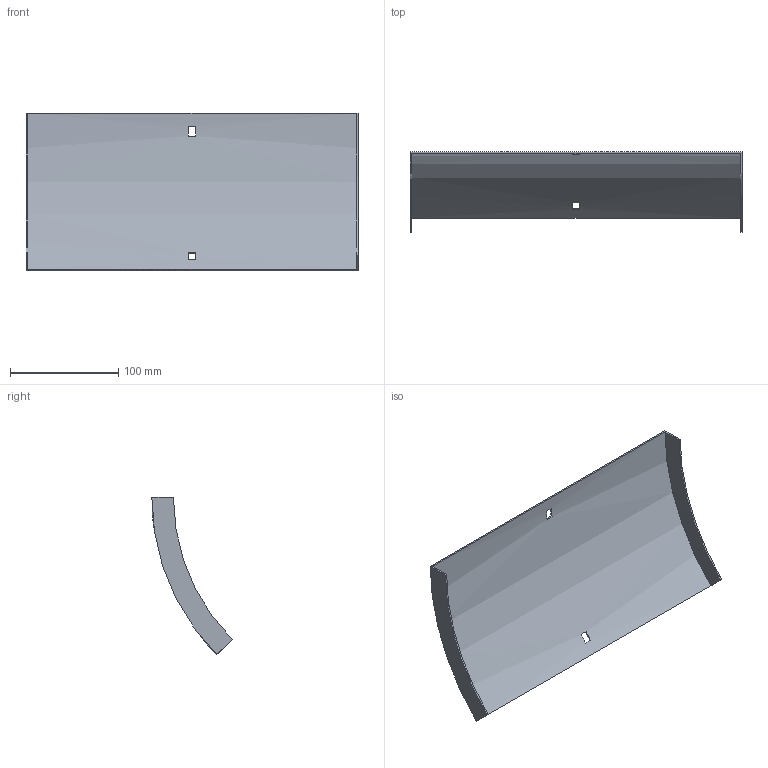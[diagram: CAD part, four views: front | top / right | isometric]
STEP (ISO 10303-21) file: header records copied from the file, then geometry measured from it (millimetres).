
FILE_DESCRIPTION (( 'STEP AP214' ), '1' );
FILE_NAME ('34N1D300.step', '2025-02-21T09:13:59', ( '' ), ( '' ), 'SwSTEP 2.0', 'SolidWorks 2023', '' );
FILE_SCHEMA (( 'AUTOMOTIVE_DESIGN' ));
Length unit declared in the file: millimetre
Products named in the file (1): 34N1D300
Bounding box: 307 x 74.33 x 145.31 mm (x, y, z)
Volume: 82366.1 mm3; surface area: 111385.6 mm2
Topology: 1 solids, 1 shells, 18 faces, 48 edges, 32 vertices
Faces by surface type: plane 14, cylinder 4
Entity records: 599 total; most frequent: DIRECTION 102, CARTESIAN_POINT 99, ORIENTED_EDGE 96, EDGE_CURVE 48, AXIS2_PLACEMENT_3D 35, VERTEX_POINT 32, VECTOR 32, LINE 32
